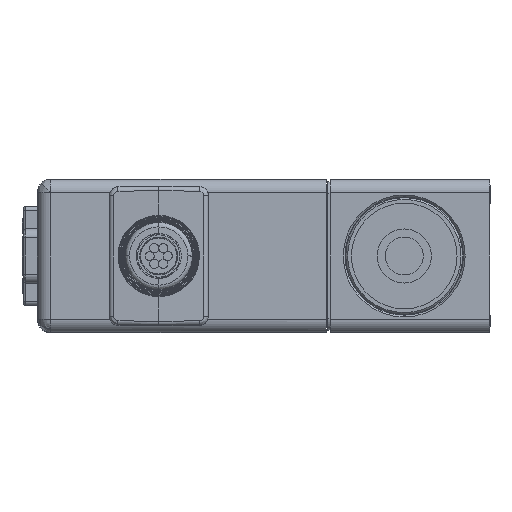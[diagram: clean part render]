
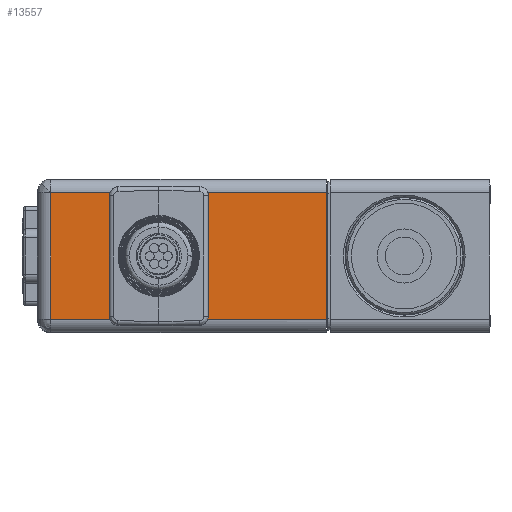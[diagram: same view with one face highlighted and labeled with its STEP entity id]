
A CAD part, left-side view. The second image highlights one B-rep face of the part: STEP entity #13557.
In plain terms, the highlighted planar face has unit normal (-1, 0, 0).
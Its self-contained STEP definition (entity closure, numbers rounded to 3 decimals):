
#440 = EDGE_CURVE ( 'NONE', #12930, #12485, #4599, .T. ) ;
#442 = EDGE_CURVE ( 'NONE', #2660, #2657, #4618, .T. ) ;
#443 = EDGE_CURVE ( 'NONE', #2657, #11855, #4620, .T. ) ;
#444 = EDGE_CURVE ( 'NONE', #11847, #11859, #4624, .T. ) ;
#445 = EDGE_CURVE ( 'NONE', #11854, #16177, #4626, .T. ) ;
#446 = EDGE_CURVE ( 'NONE', #16176, #16141, #4628, .T. ) ;
#447 = EDGE_CURVE ( 'NONE', #16158, #11863, #4630, .T. ) ;
#448 = EDGE_CURVE ( 'NONE', #11860, #12379, #4632, .T. ) ;
#449 = EDGE_CURVE ( 'NONE', #12378, #2660, #4634, .T. ) ;
#996 = EDGE_CURVE ( 'NONE', #12508, #12930, #4689, .T. ) ;
#1029 = EDGE_CURVE ( 'NONE', #12519, #12508, #4752, .T. ) ;
#1030 = EDGE_CURVE ( 'NONE', #12519, #12485, #4754, .T. ) ;
#1223 = EDGE_CURVE ( 'NONE', #16158, #16141, #20417, .T. ) ;
#1245 = EDGE_CURVE ( 'NONE', #16176, #16177, #20461, .T. ) ;
#2657 = VERTEX_POINT ( 'NONE', #22061 ) ;
#2660 = VERTEX_POINT ( 'NONE', #22064 ) ;
#4599 = LINE ( 'NONE', #19377, #4619 ) ;
#4618 = LINE ( 'NONE', #19376, #4623 ) ;
#4619 = VECTOR ( 'NONE', #19358, 1000. ) ;
#4620 = LINE ( 'NONE', #19381, #4625 ) ;
#4623 = VECTOR ( 'NONE', #19384, 1000. ) ;
#4624 = LINE ( 'NONE', #19387, #4627 ) ;
#4625 = VECTOR ( 'NONE', #19386, 1000. ) ;
#4626 = LINE ( 'NONE', #19389, #4629 ) ;
#4627 = VECTOR ( 'NONE', #19388, 1000. ) ;
#4628 = LINE ( 'NONE', #19391, #4631 ) ;
#4629 = VECTOR ( 'NONE', #19390, 1000. ) ;
#4630 = LINE ( 'NONE', #19393, #4633 ) ;
#4631 = VECTOR ( 'NONE', #19392, 1000. ) ;
#4632 = LINE ( 'NONE', #19395, #4635 ) ;
#4633 = VECTOR ( 'NONE', #19394, 1000. ) ;
#4634 = LINE ( 'NONE', #19397, #4637 ) ;
#4635 = VECTOR ( 'NONE', #19396, 1000. ) ;
#4637 = VECTOR ( 'NONE', #19398, 1000. ) ;
#4689 = LINE ( 'NONE', #19497, #4691 ) ;
#4691 = VECTOR ( 'NONE', #19493, 1000. ) ;
#4752 = LINE ( 'NONE', #19569, #4755 ) ;
#4754 = LINE ( 'NONE', #19571, #4757 ) ;
#4755 = VECTOR ( 'NONE', #19570, 1000. ) ;
#4757 = VECTOR ( 'NONE', #19573, 1000. ) ;
#9908 = CARTESIAN_POINT ( 'NONE',  ( -27.5, 39.95, 3.55 ) ) ;
#9925 = CARTESIAN_POINT ( 'NONE',  ( -27.5, 40.25, 3.55 ) ) ;
#9943 = CARTESIAN_POINT ( 'NONE',  ( -27.5, 39.95, -3.55 ) ) ;
#9944 = CARTESIAN_POINT ( 'NONE',  ( -27.5, 40.25, -3.55 ) ) ;
#11847 = VERTEX_POINT ( 'NONE', #27417 ) ;
#11854 = VERTEX_POINT ( 'NONE', #27424 ) ;
#11855 = VERTEX_POINT ( 'NONE', #27425 ) ;
#11859 = VERTEX_POINT ( 'NONE', #27429 ) ;
#11860 = VERTEX_POINT ( 'NONE', #27430 ) ;
#11863 = VERTEX_POINT ( 'NONE', #27433 ) ;
#11929 = EDGE_CURVE ( 'NONE', #11847, #11855, #26135, .T. ) ;
#11936 = EDGE_CURVE ( 'NONE', #11854, #11859, #26146, .T. ) ;
#11941 = EDGE_CURVE ( 'NONE', #11860, #11863, #26151, .T. ) ;
#11948 = EDGE_CURVE ( 'NONE', #12378, #12379, #26158, .T. ) ;
#12378 = VERTEX_POINT ( 'NONE', #31725 ) ;
#12379 = VERTEX_POINT ( 'NONE', #31718 ) ;
#12485 = VERTEX_POINT ( 'NONE', #31832 ) ;
#12508 = VERTEX_POINT ( 'NONE', #31855 ) ;
#12519 = VERTEX_POINT ( 'NONE', #31866 ) ;
#12930 = VERTEX_POINT ( 'NONE', #32589 ) ;
#13557 = ADVANCED_FACE ( 'NONE', ( #30545, #30548 ), #32854, .T. ) ;
#16141 = VERTEX_POINT ( 'NONE', #9908 ) ;
#16158 = VERTEX_POINT ( 'NONE', #9925 ) ;
#16176 = VERTEX_POINT ( 'NONE', #9943 ) ;
#16177 = VERTEX_POINT ( 'NONE', #9944 ) ;
#19358 = DIRECTION ( 'NONE',  ( 0., 0., -1. ) ) ;
#19376 = CARTESIAN_POINT ( 'NONE',  ( -27.5, 33.15, -8.5 ) ) ;
#19377 = CARTESIAN_POINT ( 'NONE',  ( -27.5, 48.65, -8.5 ) ) ;
#19381 = CARTESIAN_POINT ( 'NONE',  ( -27.5, 33.15, -8.5 ) ) ;
#19384 = DIRECTION ( 'NONE',  ( 0., 0., -1. ) ) ;
#19386 = DIRECTION ( 'NONE',  ( 0., 0., -1. ) ) ;
#19387 = CARTESIAN_POINT ( 'NONE',  ( -27.5, 18.15, -5.55 ) ) ;
#19388 = DIRECTION ( 'NONE',  ( 0., 1., 0. ) ) ;
#19389 = CARTESIAN_POINT ( 'NONE',  ( -27.5, 40.25, -8.5 ) ) ;
#19390 = DIRECTION ( 'NONE',  ( 0., 0., 1. ) ) ;
#19391 = CARTESIAN_POINT ( 'NONE',  ( -27.5, 39.95, -8.5 ) ) ;
#19392 = DIRECTION ( 'NONE',  ( 0., 0., 1. ) ) ;
#19393 = CARTESIAN_POINT ( 'NONE',  ( -27.5, 40.25, -8.5 ) ) ;
#19394 = DIRECTION ( 'NONE',  ( 0., 0., 1. ) ) ;
#19395 = CARTESIAN_POINT ( 'NONE',  ( -27.5, 18.15, 5.55 ) ) ;
#19396 = DIRECTION ( 'NONE',  ( 0., -1., 0. ) ) ;
#19397 = CARTESIAN_POINT ( 'NONE',  ( -27.5, 33.15, -8.5 ) ) ;
#19398 = DIRECTION ( 'NONE',  ( 0., 0., -1. ) ) ;
#19493 = DIRECTION ( 'NONE',  ( 0., 1., 0. ) ) ;
#19497 = CARTESIAN_POINT ( 'NONE',  ( -27.5, 18.15, 7. ) ) ;
#19569 = CARTESIAN_POINT ( 'NONE',  ( -27.5, 18.15, 0. ) ) ;
#19570 = DIRECTION ( 'NONE',  ( 0., 0., 1. ) ) ;
#19571 = CARTESIAN_POINT ( 'NONE',  ( -27.5, 91.865, -7. ) ) ;
#19573 = DIRECTION ( 'NONE',  ( 0., 1., 0. ) ) ;
#20221 = CARTESIAN_POINT ( 'NONE',  ( -27.5, 40.25, 3.55 ) ) ;
#20222 = DIRECTION ( 'NONE',  ( 0., -1., 0. ) ) ;
#20265 = CARTESIAN_POINT ( 'NONE',  ( -27.5, 39.45, -3.55 ) ) ;
#20266 = DIRECTION ( 'NONE',  ( 0., 1., 0. ) ) ;
#20417 = LINE ( 'NONE', #20221, #20420 ) ;
#20420 = VECTOR ( 'NONE', #20222, 1000. ) ;
#20461 = LINE ( 'NONE', #20265, #20464 ) ;
#20464 = VECTOR ( 'NONE', #20266, 1000. ) ;
#21268 = AXIS2_PLACEMENT_3D ( 'NONE', #27572, #27573, #27574 ) ;
#21269 = AXIS2_PLACEMENT_3D ( 'NONE', #27588, #27589, #27590 ) ;
#21270 = AXIS2_PLACEMENT_3D ( 'NONE', #27602, #27603, #27604 ) ;
#22061 = CARTESIAN_POINT ( 'NONE',  ( -27.5, 33.15, -3.55 ) ) ;
#22064 = CARTESIAN_POINT ( 'NONE',  ( -27.5, 33.15, 3.55 ) ) ;
#26135 = CIRCLE ( 'NONE', #21268, 0.5 ) ;
#26146 = CIRCLE ( 'NONE', #21269, 0.5 ) ;
#26151 = CIRCLE ( 'NONE', #21270, 0.5 ) ;
#26158 = CIRCLE ( 'NONE', #27758, 0.5 ) ;
#27417 = CARTESIAN_POINT ( 'NONE',  ( -27.5, 33.65, -5.55 ) ) ;
#27424 = CARTESIAN_POINT ( 'NONE',  ( -27.5, 40.25, -5.05 ) ) ;
#27425 = CARTESIAN_POINT ( 'NONE',  ( -27.5, 33.15, -5.05 ) ) ;
#27429 = CARTESIAN_POINT ( 'NONE',  ( -27.5, 39.75, -5.55 ) ) ;
#27430 = CARTESIAN_POINT ( 'NONE',  ( -27.5, 39.75, 5.55 ) ) ;
#27433 = CARTESIAN_POINT ( 'NONE',  ( -27.5, 40.25, 5.05 ) ) ;
#27572 = CARTESIAN_POINT ( 'NONE',  ( -27.5, 33.65, -5.05 ) ) ;
#27573 = DIRECTION ( 'NONE',  ( -1., 0., 0. ) ) ;
#27574 = DIRECTION ( 'NONE',  ( 0., 0., -1. ) ) ;
#27588 = CARTESIAN_POINT ( 'NONE',  ( -27.5, 39.75, -5.05 ) ) ;
#27589 = DIRECTION ( 'NONE',  ( -1., 0., 0. ) ) ;
#27590 = DIRECTION ( 'NONE',  ( 0., 0., -1. ) ) ;
#27602 = CARTESIAN_POINT ( 'NONE',  ( -27.5, 39.75, 5.05 ) ) ;
#27603 = DIRECTION ( 'NONE',  ( -1., 0., 0. ) ) ;
#27604 = DIRECTION ( 'NONE',  ( 0., 0., -1. ) ) ;
#27618 = CARTESIAN_POINT ( 'NONE',  ( -27.5, 33.65, 5.05 ) ) ;
#27619 = DIRECTION ( 'NONE',  ( -1., 0., 0. ) ) ;
#27620 = DIRECTION ( 'NONE',  ( 0., 0., -1. ) ) ;
#27758 = AXIS2_PLACEMENT_3D ( 'NONE', #27618, #27619, #27620 ) ;
#27848 = AXIS2_PLACEMENT_3D ( 'NONE', #32850, #32859, #32860 ) ;
#29869 = EDGE_LOOP ( 'NONE', ( #30251, #30249, #30247, #30245 ) ) ;
#29895 = EDGE_LOOP ( 'NONE', ( #30253, #30278, #30231, #30276, #30255, #30274, #30229, #30272, #30257, #30268, #30227, #30270, #30225, #30259 ) ) ;
#30225 = ORIENTED_EDGE ( 'NONE', *, *, #11941, .F. ) ;
#30227 = ORIENTED_EDGE ( 'NONE', *, *, #1223, .F. ) ;
#30229 = ORIENTED_EDGE ( 'NONE', *, *, #11936, .F. ) ;
#30231 = ORIENTED_EDGE ( 'NONE', *, *, #442, .T. ) ;
#30245 = ORIENTED_EDGE ( 'NONE', *, *, #1030, .F. ) ;
#30247 = ORIENTED_EDGE ( 'NONE', *, *, #440, .T. ) ;
#30249 = ORIENTED_EDGE ( 'NONE', *, *, #996, .T. ) ;
#30251 = ORIENTED_EDGE ( 'NONE', *, *, #1029, .T. ) ;
#30253 = ORIENTED_EDGE ( 'NONE', *, *, #11948, .F. ) ;
#30255 = ORIENTED_EDGE ( 'NONE', *, *, #11929, .F. ) ;
#30257 = ORIENTED_EDGE ( 'NONE', *, *, #1245, .F. ) ;
#30259 = ORIENTED_EDGE ( 'NONE', *, *, #448, .T. ) ;
#30268 = ORIENTED_EDGE ( 'NONE', *, *, #446, .T. ) ;
#30270 = ORIENTED_EDGE ( 'NONE', *, *, #447, .T. ) ;
#30272 = ORIENTED_EDGE ( 'NONE', *, *, #445, .T. ) ;
#30274 = ORIENTED_EDGE ( 'NONE', *, *, #444, .T. ) ;
#30276 = ORIENTED_EDGE ( 'NONE', *, *, #443, .T. ) ;
#30278 = ORIENTED_EDGE ( 'NONE', *, *, #449, .T. ) ;
#30545 = FACE_BOUND ( 'NONE', #29895, .T. ) ;
#30548 = FACE_OUTER_BOUND ( 'NONE', #29869, .T. ) ;
#31718 = CARTESIAN_POINT ( 'NONE',  ( -27.5, 33.65, 5.55 ) ) ;
#31725 = CARTESIAN_POINT ( 'NONE',  ( -27.5, 33.15, 5.05 ) ) ;
#31832 = CARTESIAN_POINT ( 'NONE',  ( -27.5, 48.65, -7. ) ) ;
#31855 = CARTESIAN_POINT ( 'NONE',  ( -27.5, 18.15, 7. ) ) ;
#31866 = CARTESIAN_POINT ( 'NONE',  ( -27.5, 18.15, -7. ) ) ;
#32589 = CARTESIAN_POINT ( 'NONE',  ( -27.5, 48.65, 7. ) ) ;
#32850 = CARTESIAN_POINT ( 'NONE',  ( -27.5, 18.15, -8.5 ) ) ;
#32854 = PLANE ( 'NONE',  #27848 ) ;
#32859 = DIRECTION ( 'NONE',  ( -1., 0., 0. ) ) ;
#32860 = DIRECTION ( 'NONE',  ( 0., 0., 1. ) ) ;
